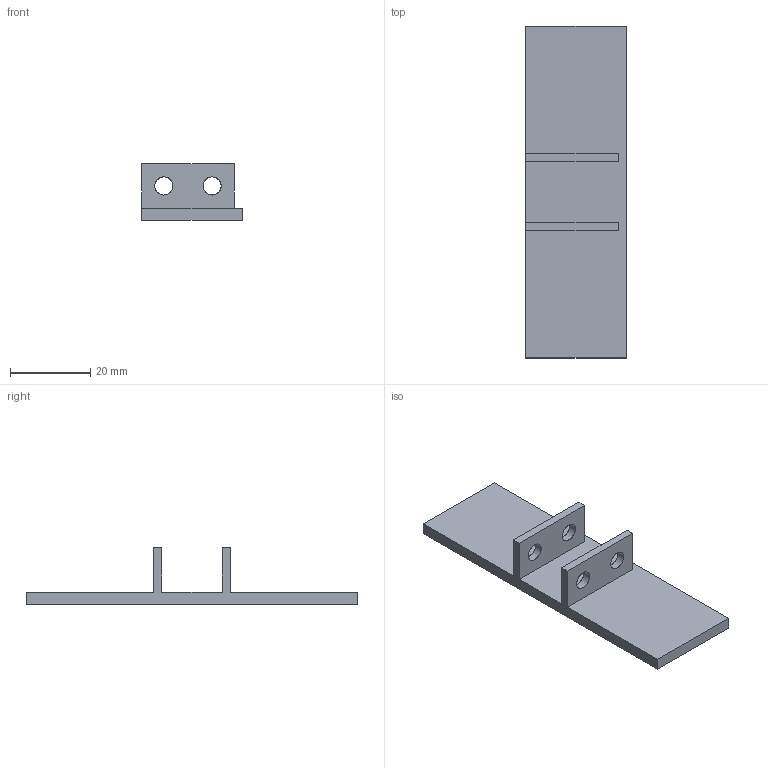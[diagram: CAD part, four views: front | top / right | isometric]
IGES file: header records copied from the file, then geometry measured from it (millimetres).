
Start section: SolidWorks IGES file using analytic representation for surfaces
Global section: file name: C:\Documents and Settings\URETIM3\Desktop\yeni katalog tolgay\843 asetal zincir bant\843 S00 082.IGS; native system: SolidWorks 2006 by SolidWorks Corporation; preprocessor: SolidWorks 2006 by SolidWorks Corporation; author: URETIM3; date: 061030.095739; units: millimetre
Bounding box: 25 x 82.6 x 14 mm (x, y, z)
Surface area: 5861.5 mm2 (no closed solid volume)
Topology: 0 solids, 0 shells, 22 faces, 360 edges, 360 vertices
Faces by surface type: bspline 14, revolution 8
